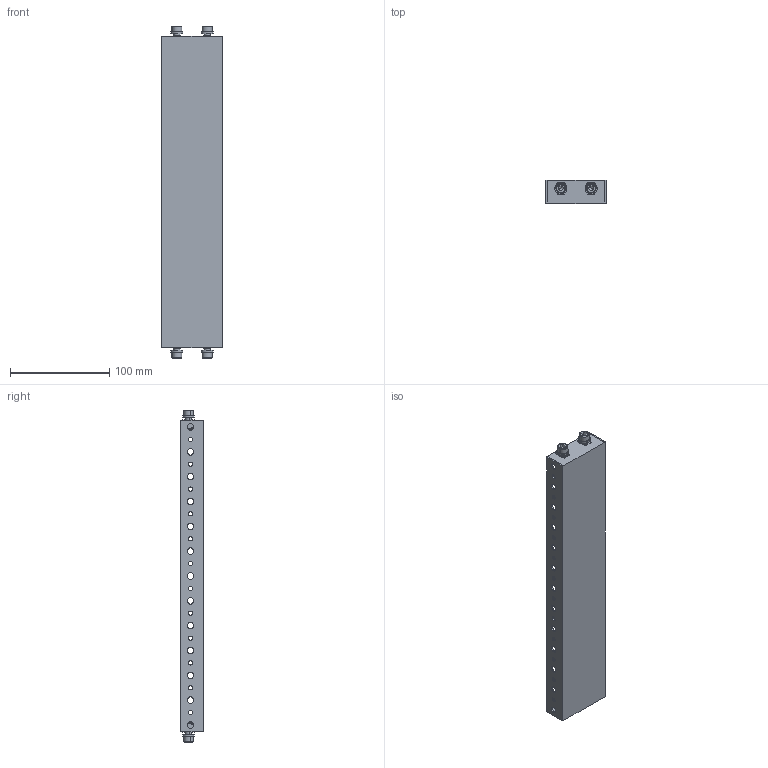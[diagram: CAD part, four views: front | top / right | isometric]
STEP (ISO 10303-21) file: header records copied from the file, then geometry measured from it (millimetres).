
FILE_DESCRIPTION(('Open CASCADE Model'),'2;1');
FILE_NAME('Open CASCADE Shape Model','2025-02-28T14:45:29',('Author'),( 'Open CASCADE'),'Open CASCADE STEP processor 7.8','Open CASCADE 7.8' ,'Unknown');
FILE_SCHEMA(('AUTOMOTIVE_DESIGN { 1 0 10303 214 1 1 1 1 }'));
Length unit declared in the file: millimetre
Products named in the file (5): Compound1; Solid1; Solid2; Solid3; Solid4
Assembly tree (13 placements, depth 2):
  Compound1
    Solid1
    Solid2  x4
    Solid3  x4
    Solid4  x4
Bounding box: 60.5 x 23 x 334.2 mm (x, y, z)
Volume: 56114.5 mm3; surface area: 77278.9 mm2
Topology: 13 solids, 13 shells, 714 faces, 1988 edges, 1292 vertices
Faces by surface type: cylinder 340, plane 326, cone 32, torus 16
Entity records: 9648 total; most frequent: CARTESIAN_POINT 1848, DIRECTION 1646, ORIENTED_EDGE 1584, EDGE_CURVE 792, AXIS2_PLACEMENT_3D 613, VERTEX_POINT 521, LINE 420, VECTOR 420
